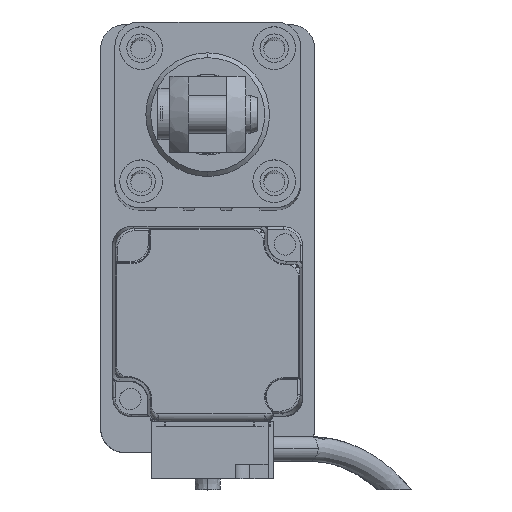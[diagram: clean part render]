
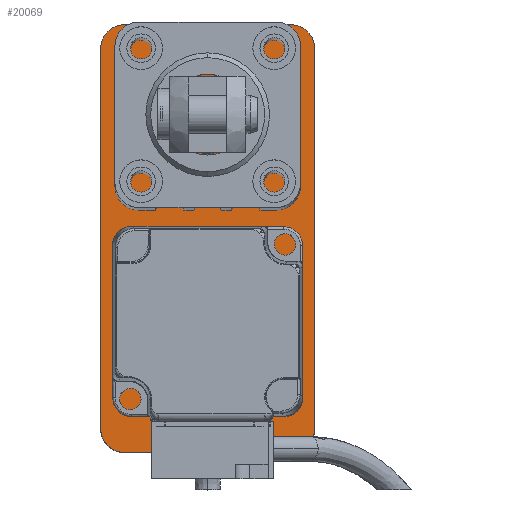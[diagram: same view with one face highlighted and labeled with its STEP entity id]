
A CAD part, top view. The second image highlights one B-rep face of the part: STEP entity #20069.
In plain terms, the highlighted planar face has unit normal (0, 0, 1).
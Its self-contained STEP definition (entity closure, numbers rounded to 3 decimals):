
#265 = CARTESIAN_POINT ( 'NONE',  ( -17.5, -40., 10. ) ) ;
#407 = VECTOR ( 'NONE', #11535, 1000. ) ;
#638 = EDGE_CURVE ( 'NONE', #14527, #10283, #28789, .T. ) ;
#976 = CIRCLE ( 'NONE', #9997, 5. ) ;
#1210 = CARTESIAN_POINT ( 'NONE',  ( -22.5, -45., 10. ) ) ;
#1266 = VERTEX_POINT ( 'NONE', #14148 ) ;
#1300 = AXIS2_PLACEMENT_3D ( 'NONE', #265, #31366, #15623 ) ;
#1380 = CIRCLE ( 'NONE', #29986, 5. ) ;
#2567 = EDGE_CURVE ( 'NONE', #22688, #32229, #8821, .T. ) ;
#3042 = ORIENTED_EDGE ( 'NONE', *, *, #2567, .T. ) ;
#5270 = LINE ( 'NONE', #26806, #407 ) ;
#5272 = AXIS2_PLACEMENT_3D ( 'NONE', #7805, #17966, #20471 ) ;
#5737 = ORIENTED_EDGE ( 'NONE', *, *, #31265, .T. ) ;
#5783 = DIRECTION ( 'NONE',  ( 1., 0., 0. ) ) ;
#7154 = AXIS2_PLACEMENT_3D ( 'NONE', #16852, #14583, #22300 ) ;
#7805 = CARTESIAN_POINT ( 'NONE',  ( 17.5, -40., 10. ) ) ;
#8760 = ORIENTED_EDGE ( 'NONE', *, *, #32553, .T. ) ;
#8821 = LINE ( 'NONE', #1210, #29881 ) ;
#8990 = DIRECTION ( 'NONE',  ( 0., -1., 0. ) ) ;
#9997 = AXIS2_PLACEMENT_3D ( 'NONE', #32221, #11267, #24948 ) ;
#10097 = CARTESIAN_POINT ( 'NONE',  ( 22.5, -45., 10. ) ) ;
#10283 = VERTEX_POINT ( 'NONE', #11800 ) ;
#10354 = VERTEX_POINT ( 'NONE', #22451 ) ;
#10668 = EDGE_CURVE ( 'NONE', #31373, #10354, #17656, .T. ) ;
#10967 = DIRECTION ( 'NONE',  ( 0., 1., 0. ) ) ;
#11084 = CARTESIAN_POINT ( 'NONE',  ( 22.5, -45., 10. ) ) ;
#11267 = DIRECTION ( 'NONE',  ( 0., 0., 1. ) ) ;
#11535 = DIRECTION ( 'NONE',  ( -1., 0., 0. ) ) ;
#11800 = CARTESIAN_POINT ( 'NONE',  ( 17.5, -45., 10. ) ) ;
#12358 = ORIENTED_EDGE ( 'NONE', *, *, #10668, .T. ) ;
#13063 = DIRECTION ( 'NONE',  ( 1., 0., 0. ) ) ;
#13346 = CARTESIAN_POINT ( 'NONE',  ( -17.5, -45., 10. ) ) ;
#13661 = EDGE_CURVE ( 'NONE', #29260, #1266, #5270, .T. ) ;
#14148 = CARTESIAN_POINT ( 'NONE',  ( -17.5, 45., 10. ) ) ;
#14417 = VECTOR ( 'NONE', #10967, 1000. ) ;
#14527 = VERTEX_POINT ( 'NONE', #13346 ) ;
#14583 = DIRECTION ( 'NONE',  ( 0., 0., 1. ) ) ;
#15025 = VECTOR ( 'NONE', #13063, 1000. ) ;
#15623 = DIRECTION ( 'NONE',  ( 1., 0., 0. ) ) ;
#15730 = CARTESIAN_POINT ( 'NONE',  ( 17.5, 45., 10. ) ) ;
#16165 = EDGE_LOOP ( 'NONE', ( #12358, #20006, #23410, #8760, #3042, #27224, #23309, #5737 ) ) ;
#16852 = CARTESIAN_POINT ( 'NONE',  ( 0., 0., 10. ) ) ;
#17656 = LINE ( 'NONE', #11084, #14417 ) ;
#17966 = DIRECTION ( 'NONE',  ( 0., 0., 1. ) ) ;
#20006 = ORIENTED_EDGE ( 'NONE', *, *, #30251, .T. ) ;
#20069 = ADVANCED_FACE ( 'NONE', ( #32113 ), #21848, .T. ) ;
#20471 = DIRECTION ( 'NONE',  ( 1., 0., 0. ) ) ;
#21287 = CARTESIAN_POINT ( 'NONE',  ( -17.5, 40., 10. ) ) ;
#21848 = PLANE ( 'NONE',  #7154 ) ;
#22137 = CARTESIAN_POINT ( 'NONE',  ( -22.5, 40., 10. ) ) ;
#22300 = DIRECTION ( 'NONE',  ( 1., 0., 0. ) ) ;
#22451 = CARTESIAN_POINT ( 'NONE',  ( 22.5, 40., 10. ) ) ;
#22688 = VERTEX_POINT ( 'NONE', #22137 ) ;
#23309 = ORIENTED_EDGE ( 'NONE', *, *, #638, .T. ) ;
#23410 = ORIENTED_EDGE ( 'NONE', *, *, #13661, .T. ) ;
#24948 = DIRECTION ( 'NONE',  ( 1., 0., 0. ) ) ;
#26108 = CIRCLE ( 'NONE', #5272, 5. ) ;
#26806 = CARTESIAN_POINT ( 'NONE',  ( 22.5, 45., 10. ) ) ;
#27224 = ORIENTED_EDGE ( 'NONE', *, *, #27554, .T. ) ;
#27554 = EDGE_CURVE ( 'NONE', #32229, #14527, #28774, .T. ) ;
#28774 = CIRCLE ( 'NONE', #1300, 5. ) ;
#28789 = LINE ( 'NONE', #10097, #15025 ) ;
#29260 = VERTEX_POINT ( 'NONE', #15730 ) ;
#29881 = VECTOR ( 'NONE', #8990, 1000. ) ;
#29986 = AXIS2_PLACEMENT_3D ( 'NONE', #21287, #32494, #5783 ) ;
#30251 = EDGE_CURVE ( 'NONE', #10354, #29260, #976, .T. ) ;
#31265 = EDGE_CURVE ( 'NONE', #10283, #31373, #26108, .T. ) ;
#31366 = DIRECTION ( 'NONE',  ( 0., 0., 1. ) ) ;
#31373 = VERTEX_POINT ( 'NONE', #31663 ) ;
#31663 = CARTESIAN_POINT ( 'NONE',  ( 22.5, -40., 10. ) ) ;
#32113 = FACE_OUTER_BOUND ( 'NONE', #16165, .T. ) ;
#32221 = CARTESIAN_POINT ( 'NONE',  ( 17.5, 40., 10. ) ) ;
#32229 = VERTEX_POINT ( 'NONE', #32407 ) ;
#32407 = CARTESIAN_POINT ( 'NONE',  ( -22.5, -40., 10. ) ) ;
#32494 = DIRECTION ( 'NONE',  ( 0., 0., 1. ) ) ;
#32553 = EDGE_CURVE ( 'NONE', #1266, #22688, #1380, .T. ) ;
